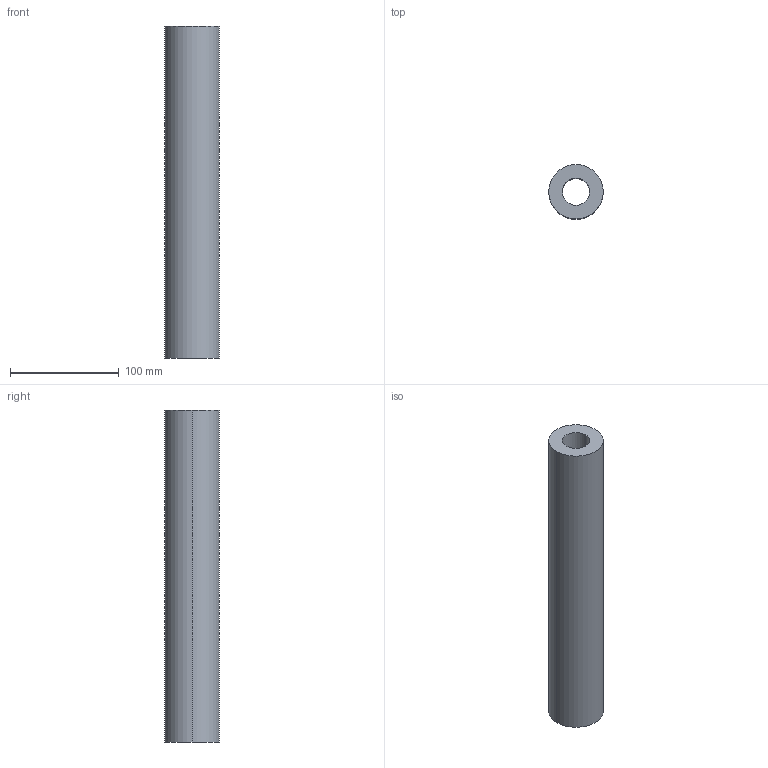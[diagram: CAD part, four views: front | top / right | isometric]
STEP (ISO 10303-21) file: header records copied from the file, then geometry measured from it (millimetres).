
FILE_DESCRIPTION (( 'STEP AP214' ), '1' );
FILE_NAME ('BRR-50X305.STEP', '2020-07-21T10:13:43', ( 'August' ), ( '' ), 'SwSTEP 2.0', 'SolidWorks 2018', '' );
FILE_SCHEMA (( 'AUTOMOTIVE_DESIGN' ));
Length unit declared in the file: millimetre
Products named in the file (1): BRR-50X305
Bounding box: 50 x 50 x 305 mm (x, y, z)
Volume: 449149.6 mm3; surface area: 74809.2 mm2
Topology: 1 solids, 1 shells, 6 faces, 12 edges, 8 vertices
Faces by surface type: cylinder 4, plane 2
Entity records: 202 total; most frequent: DIRECTION 34, CARTESIAN_POINT 27, ORIENTED_EDGE 24, AXIS2_PLACEMENT_3D 15, EDGE_CURVE 12, VERTEX_POINT 8, EDGE_LOOP 8, CIRCLE 8
